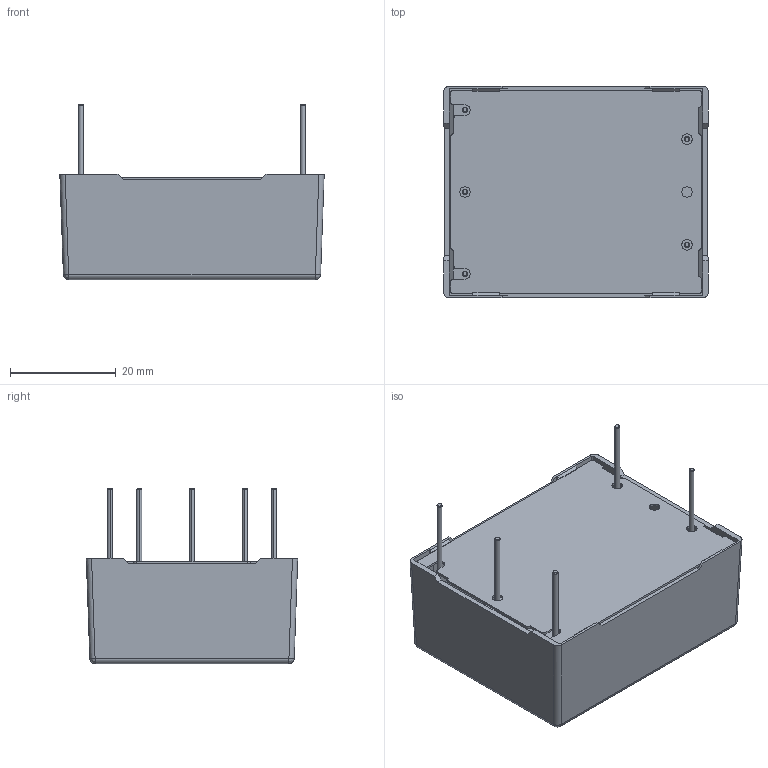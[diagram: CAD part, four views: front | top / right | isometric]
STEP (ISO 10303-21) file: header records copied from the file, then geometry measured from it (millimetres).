
FILE_DESCRIPTION (( 'STEP AP214' ), '1' );
FILE_NAME ('tms06-pcb-single.STEP', '2015-12-22T12:53:10', ( '' ), ( '' ), 'SwSTEP 2.0', 'SolidWorks 2013', '' );
FILE_SCHEMA (( 'AUTOMOTIVE_DESIGN' ));
Length unit declared in the file: millimetre
Products named in the file (4): pin; Base; Case; tms06-pcb-single
Assembly tree (7 placements, depth 2):
  tms06-pcb-single
    Case
    Base
    pin  x5
Bounding box: 50 x 40 x 33.2 mm (x, y, z)
Volume: 5745.6 mm3; surface area: 14423.1 mm2
Topology: 7 solids, 9 shells, 257 faces, 662 edges, 426 vertices
Faces by surface type: plane 148, cylinder 81, cone 20, bspline 4, sphere 4
Entity records: 9593 total; most frequent: CARTESIAN_POINT 1435, ORIENTED_EDGE 1196, DIRECTION 1096, EDGE_CURVE 598, LINE 458, VECTOR 458, VERTEX_POINT 386, AXIS2_PLACEMENT_3D 319
